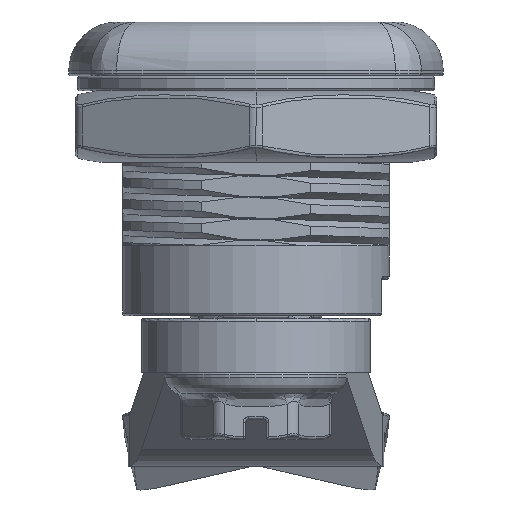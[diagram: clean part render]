
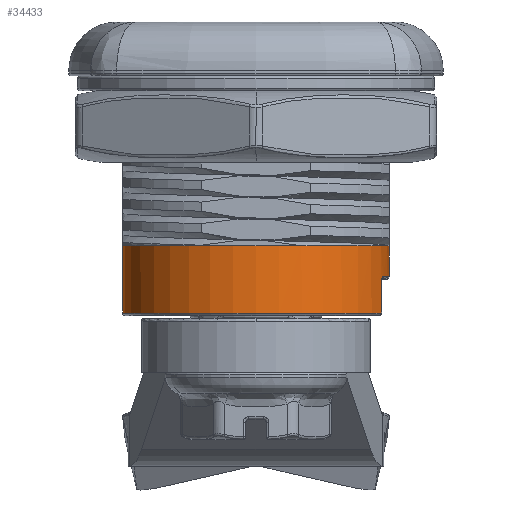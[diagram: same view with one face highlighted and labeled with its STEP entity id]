
A CAD part, front view. The second image highlights one B-rep face of the part: STEP entity #34433.
In plain terms, the highlighted cylindrical face has radius 9.9 mm (diameter 19.8 mm), a partial arc.
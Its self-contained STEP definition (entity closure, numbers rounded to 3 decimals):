
#3534 = CARTESIAN_POINT ( 'NONE',  ( -9.9, 0., -21.6 ) ) ;
#3543 = CIRCLE ( 'NONE', #3577, 9.9 ) ;
#3567 = DIRECTION ( 'NONE',  ( -1., 0., 0. ) ) ;
#3568 = DIRECTION ( 'NONE',  ( 0., 0., 1. ) ) ;
#3570 = CARTESIAN_POINT ( 'NONE',  ( 0., 0., -21.6 ) ) ;
#3577 = AXIS2_PLACEMENT_3D ( 'NONE', #3570, #3568, #3567 ) ;
#3601 = CARTESIAN_POINT ( 'NONE',  ( 9.309, -3.368, -21.6 ) ) ;
#3684 = DIRECTION ( 'NONE',  ( 0., 0., -1. ) ) ;
#3685 = VECTOR ( 'NONE', #3684, 1000. ) ;
#3686 = CARTESIAN_POINT ( 'NONE',  ( -9.9, 0., -16.6 ) ) ;
#3687 = LINE ( 'NONE', #3686, #3685 ) ;
#3688 = CARTESIAN_POINT ( 'NONE',  ( -9.9, 0., -16.6 ) ) ;
#3701 = CARTESIAN_POINT ( 'NONE',  ( 0., -9.9, -16.6 ) ) ;
#3703 = DIRECTION ( 'NONE',  ( 0., 0., -1. ) ) ;
#3704 = VECTOR ( 'NONE', #3703, 1000. ) ;
#3705 = CARTESIAN_POINT ( 'NONE',  ( 9.9, 0., -16.6 ) ) ;
#3707 = LINE ( 'NONE', #3705, #3704 ) ;
#3711 = CYLINDRICAL_SURFACE ( 'NONE', #3730, 9.9 ) ;
#3712 = CARTESIAN_POINT ( 'NONE',  ( 9.9, 0., -18.9 ) ) ;
#3714 = CARTESIAN_POINT ( 'NONE',  ( 9.9, 0., -16.602 ) ) ;
#3717 = FACE_OUTER_BOUND ( 'NONE', #34391, .T. ) ;
#3721 = CARTESIAN_POINT ( 'NONE',  ( 9.899, -0.1, -16.6 ) ) ;
#3722 = CIRCLE ( 'NONE', #3776, 9.9 ) ;
#3723 = CARTESIAN_POINT ( 'NONE',  ( 9.9, 0., -16.602 ) ) ;
#3724 = CARTESIAN_POINT ( 'NONE',  ( 9.9, -0.05, -16.601 ) ) ;
#3725 = CARTESIAN_POINT ( 'NONE',  ( 9.899, -0.1, -16.6 ) ) ;
#3726 = CARTESIAN_POINT ( 'NONE',  ( 9.447, -2.96, -18.9 ) ) ;
#3727 =( BOUNDED_CURVE ( )  B_SPLINE_CURVE ( 2, ( #3725, #3724, #3723 ),
 .UNSPECIFIED., .F., .F. ) 
 B_SPLINE_CURVE_WITH_KNOTS ( ( 3, 3 ),
 ( 0.984, 0.984 ),
 .UNSPECIFIED. ) 
 CURVE ( )  GEOMETRIC_REPRESENTATION_ITEM ( )  RATIONAL_B_SPLINE_CURVE ( ( 0.998, 0.999, 1. ) ) 
 REPRESENTATION_ITEM ( '' )  );
#3729 = DIRECTION ( 'NONE',  ( -1., 0., 0. ) ) ;
#3730 = AXIS2_PLACEMENT_3D ( 'NONE', #3736, #3735, #3729 ) ;
#3735 = DIRECTION ( 'NONE',  ( 0., 0., -1. ) ) ;
#3736 = CARTESIAN_POINT ( 'NONE',  ( 0., 0., -16.6 ) ) ;
#3766 = DIRECTION ( 'NONE',  ( -1., 0., 0. ) ) ;
#3767 = DIRECTION ( 'NONE',  ( 0., 0., -1. ) ) ;
#3768 = CARTESIAN_POINT ( 'NONE',  ( 0., 0., -16.6 ) ) ;
#3769 = AXIS2_PLACEMENT_3D ( 'NONE', #3768, #3767, #3766 ) ;
#3770 = CIRCLE ( 'NONE', #3769, 9.9 ) ;
#3773 = DIRECTION ( 'NONE',  ( -1., 0., 0. ) ) ;
#3774 = DIRECTION ( 'NONE',  ( 0., 0., -1. ) ) ;
#3775 = CARTESIAN_POINT ( 'NONE',  ( 0., 0., -16.6 ) ) ;
#3776 = AXIS2_PLACEMENT_3D ( 'NONE', #3775, #3774, #3773 ) ;
#3863 = CARTESIAN_POINT ( 'NONE',  ( 9.309, -3.368, -19.3 ) ) ;
#3872 = B_SPLINE_CURVE_WITH_KNOTS ( 'NONE', 3,
 ( #3916, #3915, #3914, #3913, #3912, #3911 ),
 .UNSPECIFIED., .F., .F.,
 ( 4, 2, 4 ),
 ( 0., 0., 0.001 ),
 .UNSPECIFIED. ) ;
#3888 = DIRECTION ( 'NONE',  ( 0., 0., 1. ) ) ;
#3889 = VECTOR ( 'NONE', #3888, 1000. ) ;
#3890 = CARTESIAN_POINT ( 'NONE',  ( 9.309, -3.368, -16.6 ) ) ;
#3899 = DIRECTION ( 'NONE',  ( -1., 0., 0. ) ) ;
#3900 = DIRECTION ( 'NONE',  ( 0., 0., 1. ) ) ;
#3901 = CARTESIAN_POINT ( 'NONE',  ( 0., 0., -18.9 ) ) ;
#3902 = AXIS2_PLACEMENT_3D ( 'NONE', #3901, #3900, #3899 ) ;
#3907 = LINE ( 'NONE', #3890, #3889 ) ;
#3908 = CIRCLE ( 'NONE', #3902, 9.9 ) ;
#3911 = CARTESIAN_POINT ( 'NONE',  ( 9.309, -3.368, -19.3 ) ) ;
#3912 = CARTESIAN_POINT ( 'NONE',  ( 9.309, -3.368, -19.19 ) ) ;
#3913 = CARTESIAN_POINT ( 'NONE',  ( 9.327, -3.32, -19.085 ) ) ;
#3914 = CARTESIAN_POINT ( 'NONE',  ( 9.38, -3.167, -18.94 ) ) ;
#3915 = CARTESIAN_POINT ( 'NONE',  ( 9.414, -3.064, -18.9 ) ) ;
#3916 = CARTESIAN_POINT ( 'NONE',  ( 9.447, -2.96, -18.9 ) ) ;
#34360 = EDGE_CURVE ( 'NONE', #34361, #34376, #3543, .T. ) ;
#34361 = VERTEX_POINT ( 'NONE', #3534 ) ;
#34376 = VERTEX_POINT ( 'NONE', #3601 ) ;
#34391 = EDGE_LOOP ( 'NONE', ( #34450, #34436, #34441, #34444, #34440, #34507, #34509, #34443, #34514 ) ) ;
#34404 = EDGE_CURVE ( 'NONE', #34405, #34361, #3687, .T. ) ;
#34405 = VERTEX_POINT ( 'NONE', #3688 ) ;
#34418 = VERTEX_POINT ( 'NONE', #3714 ) ;
#34420 = VERTEX_POINT ( 'NONE', #3712 ) ;
#34422 = EDGE_CURVE ( 'NONE', #34418, #34420, #3707, .T. ) ;
#34433 = ADVANCED_FACE ( 'NONE', ( #3717 ), #3711, .T. ) ;
#34434 = EDGE_CURVE ( 'NONE', #34439, #34418, #3727, .T. ) ;
#34435 = VERTEX_POINT ( 'NONE', #3701 ) ;
#34436 = ORIENTED_EDGE ( 'NONE', *, *, #34434, .F. ) ;
#34437 = EDGE_CURVE ( 'NONE', #34439, #34435, #3722, .T. ) ;
#34438 = VERTEX_POINT ( 'NONE', #3726 ) ;
#34439 = VERTEX_POINT ( 'NONE', #3721 ) ;
#34440 = ORIENTED_EDGE ( 'NONE', *, *, #34404, .T. ) ;
#34441 = ORIENTED_EDGE ( 'NONE', *, *, #34437, .T. ) ;
#34442 = EDGE_CURVE ( 'NONE', #34435, #34405, #3770, .T. ) ;
#34443 = ORIENTED_EDGE ( 'NONE', *, *, #34510, .F. ) ;
#34444 = ORIENTED_EDGE ( 'NONE', *, *, #34442, .T. ) ;
#34450 = ORIENTED_EDGE ( 'NONE', *, *, #34422, .F. ) ;
#34507 = ORIENTED_EDGE ( 'NONE', *, *, #34360, .T. ) ;
#34508 = VERTEX_POINT ( 'NONE', #3863 ) ;
#34509 = ORIENTED_EDGE ( 'NONE', *, *, #34517, .T. ) ;
#34510 = EDGE_CURVE ( 'NONE', #34438, #34508, #3872, .T. ) ;
#34511 = EDGE_CURVE ( 'NONE', #34438, #34420, #3908, .T. ) ;
#34514 = ORIENTED_EDGE ( 'NONE', *, *, #34511, .T. ) ;
#34517 = EDGE_CURVE ( 'NONE', #34376, #34508, #3907, .T. ) ;
